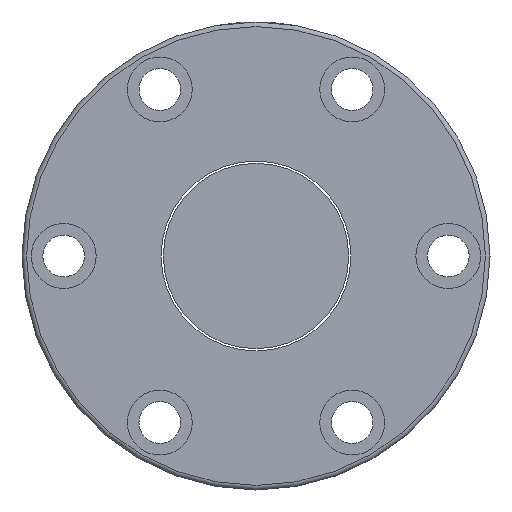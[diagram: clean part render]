
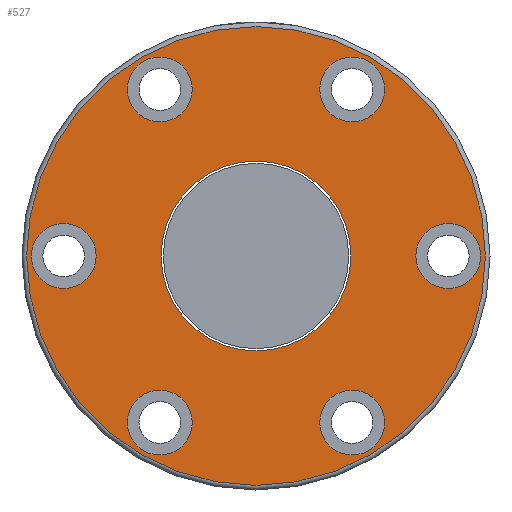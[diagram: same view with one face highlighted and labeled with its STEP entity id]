
A CAD part, left-side view. The second image highlights one B-rep face of the part: STEP entity #527.
In plain terms, the highlighted planar face has unit normal (-1, 0, 0).
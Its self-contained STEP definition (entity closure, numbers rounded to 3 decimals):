
#65=PLANE('',#625);
#137=ORIENTED_EDGE('',*,*,#216,.T.);
#138=ORIENTED_EDGE('',*,*,#209,.T.);
#139=ORIENTED_EDGE('',*,*,#205,.T.);
#140=ORIENTED_EDGE('',*,*,#201,.T.);
#141=ORIENTED_EDGE('',*,*,#197,.T.);
#142=ORIENTED_EDGE('',*,*,#193,.T.);
#143=ORIENTED_EDGE('',*,*,#189,.T.);
#144=ORIENTED_EDGE('',*,*,#217,.F.);
#189=EDGE_CURVE('',#240,#240,#282,.T.);
#193=EDGE_CURVE('',#244,#244,#286,.T.);
#197=EDGE_CURVE('',#248,#248,#290,.T.);
#201=EDGE_CURVE('',#252,#252,#294,.T.);
#205=EDGE_CURVE('',#256,#256,#298,.T.);
#209=EDGE_CURVE('',#260,#260,#302,.T.);
#216=EDGE_CURVE('',#267,#267,#309,.T.);
#217=EDGE_CURVE('',#268,#268,#310,.T.);
#240=VERTEX_POINT('',#850);
#244=VERTEX_POINT('',#861);
#248=VERTEX_POINT('',#872);
#252=VERTEX_POINT('',#883);
#256=VERTEX_POINT('',#894);
#260=VERTEX_POINT('',#905);
#267=VERTEX_POINT('',#925);
#268=VERTEX_POINT('',#928);
#282=CIRCLE('',#576,7.);
#286=CIRCLE('',#583,7.);
#290=CIRCLE('',#590,7.);
#294=CIRCLE('',#597,7.);
#298=CIRCLE('',#604,7.);
#302=CIRCLE('',#611,7.);
#309=CIRCLE('',#624,49.5);
#310=CIRCLE('',#626,20.5);
#372=EDGE_LOOP('',(#137));
#373=EDGE_LOOP('',(#138));
#374=EDGE_LOOP('',(#139));
#375=EDGE_LOOP('',(#140));
#376=EDGE_LOOP('',(#141));
#377=EDGE_LOOP('',(#142));
#378=EDGE_LOOP('',(#143));
#379=EDGE_LOOP('',(#144));
#455=FACE_BOUND('',#372,.T.);
#456=FACE_BOUND('',#373,.T.);
#457=FACE_BOUND('',#374,.T.);
#458=FACE_BOUND('',#375,.T.);
#459=FACE_BOUND('',#376,.T.);
#460=FACE_BOUND('',#377,.T.);
#461=FACE_BOUND('',#378,.T.);
#462=FACE_BOUND('',#379,.T.);
#527=ADVANCED_FACE('',(#455,#456,#457,#458,#459,#460,#461,#462),#65,.T.);
#576=AXIS2_PLACEMENT_3D('',#849,#666,#667);
#583=AXIS2_PLACEMENT_3D('',#860,#680,#681);
#590=AXIS2_PLACEMENT_3D('',#871,#694,#695);
#597=AXIS2_PLACEMENT_3D('',#882,#708,#709);
#604=AXIS2_PLACEMENT_3D('',#893,#722,#723);
#611=AXIS2_PLACEMENT_3D('',#904,#736,#737);
#624=AXIS2_PLACEMENT_3D('',#924,#762,#763);
#625=AXIS2_PLACEMENT_3D('',#926,#764,#765);
#626=AXIS2_PLACEMENT_3D('',#927,#766,#767);
#666=DIRECTION('',(1.,0.,0.));
#667=DIRECTION('',(0.,-0.866,-0.5));
#680=DIRECTION('',(1.,0.,0.));
#681=DIRECTION('',(0.,-0.866,0.5));
#694=DIRECTION('',(1.,0.,0.));
#695=DIRECTION('',(0.,0.,1.));
#708=DIRECTION('',(1.,0.,0.));
#709=DIRECTION('',(0.,0.866,0.5));
#722=DIRECTION('',(1.,0.,0.));
#723=DIRECTION('',(0.,0.866,-0.5));
#736=DIRECTION('',(1.,0.,0.));
#737=DIRECTION('',(0.,0.,-1.));
#762=DIRECTION('',(-1.,0.,0.));
#763=DIRECTION('',(0.,0.,1.));
#764=DIRECTION('',(-1.,0.,0.));
#765=DIRECTION('',(0.,0.,-1.));
#766=DIRECTION('',(-1.,0.,0.));
#767=DIRECTION('',(0.,0.,1.));
#849=CARTESIAN_POINT('',(-59.,-20.75,-35.94));
#850=CARTESIAN_POINT('',(-59.,-26.812,-39.44));
#860=CARTESIAN_POINT('',(-59.,-41.5,0.));
#861=CARTESIAN_POINT('',(-59.,-47.562,3.5));
#871=CARTESIAN_POINT('',(-59.,-20.75,35.94));
#872=CARTESIAN_POINT('',(-59.,-20.75,42.94));
#882=CARTESIAN_POINT('',(-59.,20.75,35.94));
#883=CARTESIAN_POINT('',(-59.,26.812,39.44));
#893=CARTESIAN_POINT('',(-59.,41.5,0.));
#894=CARTESIAN_POINT('',(-59.,47.562,-3.5));
#904=CARTESIAN_POINT('',(-59.,20.75,-35.94));
#905=CARTESIAN_POINT('',(-59.,20.75,-42.94));
#924=CARTESIAN_POINT('',(-59.,0.,0.));
#925=CARTESIAN_POINT('',(-59.,0.,49.5));
#926=CARTESIAN_POINT('',(-59.,23.,0.));
#927=CARTESIAN_POINT('',(-59.,0.,0.));
#928=CARTESIAN_POINT('',(-59.,0.,20.5));
